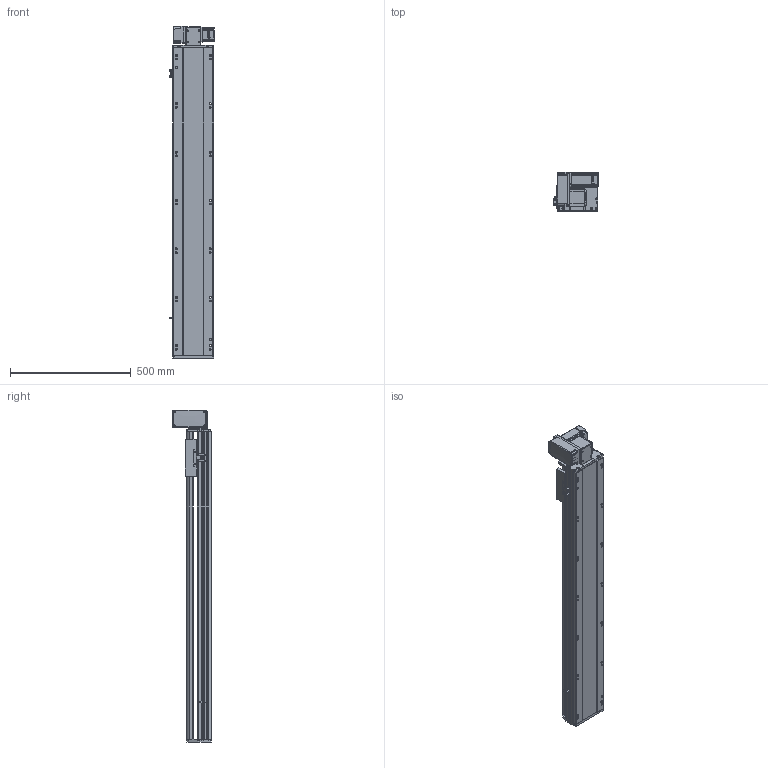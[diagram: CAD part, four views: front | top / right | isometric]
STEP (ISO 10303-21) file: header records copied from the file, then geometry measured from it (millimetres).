
FILE_DESCRIPTION (( 'STEP AP214' ), '1' );
FILE_NAME ('RTB17S-XX-1000-LW-M40-C4.STEP', '2025-12-11T07:03:13', ( '' ), ( '' ), 'SwSTEP 2.0', 'SolidWorks 2018', '' );
FILE_SCHEMA (( 'AUTOMOTIVE_DESIGN' ));
Length unit declared in the file: millimetre
Products named in the file (14): RTB17S-L-007奻裔^RTB17S-XX-XX-LW-M40-C4; RTB17S-L-014-T20--々湍釱^RTB17S-LW-々湍釱蚾饜-400W_RTB17S-XX-XX-LW-M40-C4; RTB17-R-011菁釱^RTB17S-XX-XX-LW-M40-C4; RTB14-L-018P^RTB17S-LW-々湍釱蚾饜-400W_RTB17S-XX-XX-LW-M40-C4; RTB14-L-008-M20--萇儂啣^RTB17S-LW-々湍釱蚾饜-400W_RTB17S-XX-XX-LW-M40-C4; RTB17S-L-004佪裝蹟譫蟀諉釱^RTB17S-XX-XX-LW-M40-C4; RTH13-BL-012覜茼え俋离^RTB17S-XX-XX-LW-M40-C4; RTB14-L-005P--轴承塑胶压盖^RTB17S-LW-皮带座装配-400W_RTB17S-XX-XX-LW-M40-C4; RTB17S-XX-1000-LW-M40-C4; 400W侜督萇儂^RTB17S-XX-XX-LW-M40-C4; RTB17S-LW-々湍釱蚾饜-400W^RTB17S-XX-XX-LW-M40-C4; RTB17S-L-001耜醱啣^RTB17S-XX-XX-LW-M40-C4; OMRON EE-SX672 传感器^RTB17S-XX-XX-LW-M40-C4; RTB14-L-017P^RTB17S-LW-々湍釱蚾饜-400W_RTB17S-XX-XX-LW-M40-C4
Assembly tree (16 placements, depth 3):
  RTB17S-XX-1000-LW-M40-C4
    RTB17-R-011菁釱^RTB17S-XX-XX-LW-M40-C4
    RTB17S-L-007奻裔^RTB17S-XX-XX-LW-M40-C4
    OMRON EE-SX672 传感器^RTB17S-XX-XX-LW-M40-C4  x3
    RTB17S-L-001耜醱啣^RTB17S-XX-XX-LW-M40-C4
    400W侜督萇儂^RTB17S-XX-XX-LW-M40-C4
    RTB17S-L-004佪裝蹟譫蟀諉釱^RTB17S-XX-XX-LW-M40-C4
    RTH13-BL-012覜茼え俋离^RTB17S-XX-XX-LW-M40-C4
    RTB17S-LW-々湍釱蚾饜-400W^RTB17S-XX-XX-LW-M40-C4
      RTB17S-L-014-T20--々湍釱^RTB17S-LW-々湍釱蚾饜-400W_RTB17S-XX-XX-LW-M40-C4
      RTB14-L-005P--轴承塑胶压盖^RTB17S-LW-皮带座装配-400W_RTB17S-XX-XX-LW-M40-C4
      RTB14-L-008-M20--萇儂啣^RTB17S-LW-々湍釱蚾饜-400W_RTB17S-XX-XX-LW-M40-C4
      RTB14-L-017P^RTB17S-LW-々湍釱蚾饜-400W_RTB17S-XX-XX-LW-M40-C4  x2
      RTB14-L-018P^RTB17S-LW-々湍釱蚾饜-400W_RTB17S-XX-XX-LW-M40-C4
Bounding box: 186 x 160.5 x 1372.5 mm (x, y, z)
Volume: 12376987.7 mm3; surface area: 1497165.5 mm2
Topology: 15 solids, 15 shells, 2205 faces, 6087 edges, 3969 vertices
Faces by surface type: plane 1068, cylinder 689, bspline 301, cone 139, torus 8
Entity records: 62633 total; most frequent: CARTESIAN_POINT 17492, ORIENTED_EDGE 9018, DIRECTION 8396, EDGE_CURVE 4509, VERTEX_POINT 2957, AXIS2_PLACEMENT_3D 2887, LINE 2622, VECTOR 2622
